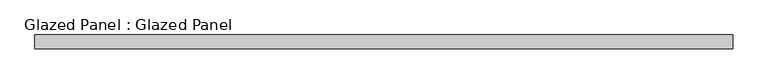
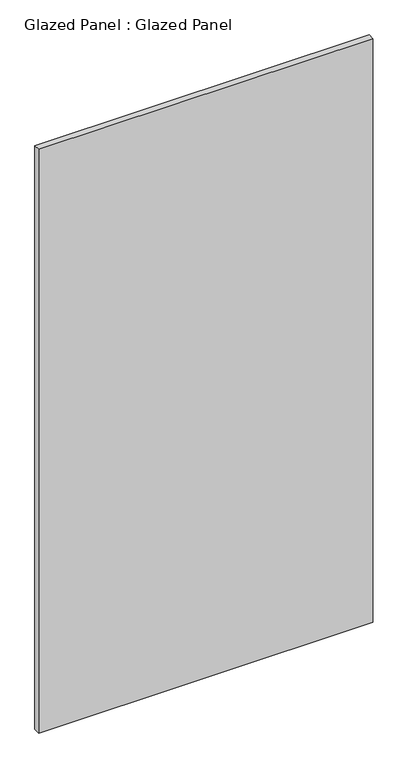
"""IFC4 building model written with IfcOpenShell, lengths in millimetres: plate geometry, Glazed Panel : Glazed Panel."""

from ifc_helpers import new_model, si_unit, origin, origin_with_axes, place, context, project, spatial, polyline, outline, extrude, source, transform, mapped, element, save


def glazed_panel_glazed_panel_d834ab8b(model_context):
    return source(origin(), model_context, "Body", "SweptSolid", [
        extrude(outline(polyline([(642.9731911, 38.1), (-642.9731911, 38.1), (-642.9731911, 63.5), (642.9731911, 63.5), (642.9731911, 38.1)])), origin_with_axes(), (0.0, 0.0, 1.0), 2374.9),
    ])


if __name__ == "__main__":
    model = new_model("IFC4")
    model_context = context("Model", 3, world=origin())
    ifc_project = project(units=[si_unit("LENGTHUNIT", "METRE", prefix="MILLI")], contexts=[model_context])
    site = spatial("IfcSite", under=ifc_project)
    building = spatial("IfcBuilding", under=site)
    placement = place(None, origin())
    glazed_panel_glazed_panel_shape = glazed_panel_glazed_panel_d834ab8b(model_context)
    element("IfcPlate", 1, ObjectType="Glazed Panel : Glazed Panel", at=placement, inside=building, context=model_context, shape_type="MappedRepresentation", body=[
        mapped(glazed_panel_glazed_panel_shape, transform((0.0, 0.0, 0.0), x_axis=(1.0, 0.0, 0.0), y_axis=(0.0, 1.0, 0.0), z_axis=(0.0, 0.0, 1.0))),
    ])
    save(model, "model.ifc")
